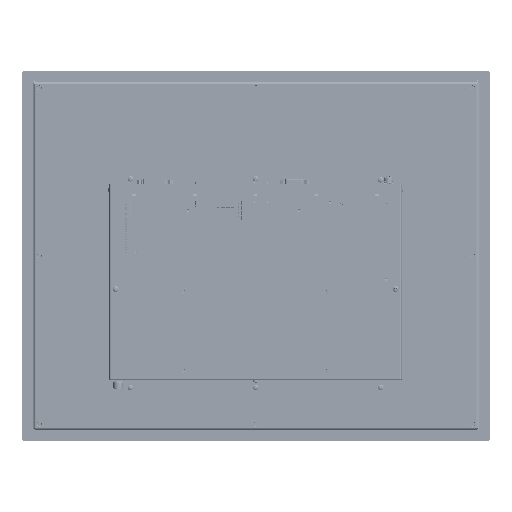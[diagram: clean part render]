
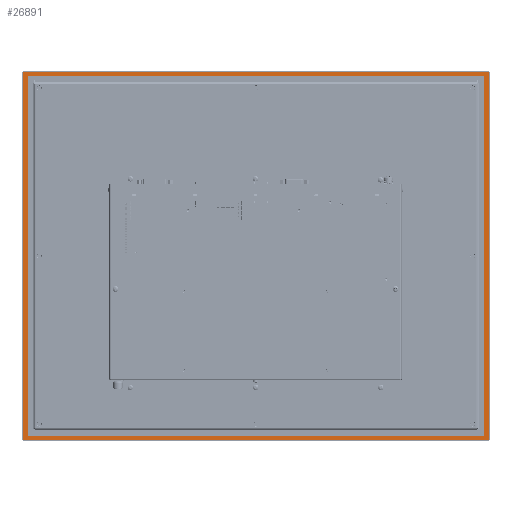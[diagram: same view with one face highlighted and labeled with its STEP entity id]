
A CAD part, front view. The second image highlights one B-rep face of the part: STEP entity #26891.
In plain terms, the highlighted planar face has unit normal (0, -1, 0).
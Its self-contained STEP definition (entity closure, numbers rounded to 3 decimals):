
#607 = DIRECTION ( 'NONE',  ( -1., 0., 0. ) ) ;
#9282 = VERTEX_POINT ( 'NONE', #290086 ) ;
#9455 = ORIENTED_EDGE ( 'NONE', *, *, #10321, .F. ) ;
#10321 = EDGE_CURVE ( 'NONE', #73705, #656509, #248131, .T. ) ;
#14306 = ORIENTED_EDGE ( 'NONE', *, *, #696862, .F. ) ;
#14361 = DIRECTION ( 'NONE',  ( 0., -1., 0. ) ) ;
#26891 = ADVANCED_FACE ( 'NONE', ( #631649, #69956 ), #641865, .T. ) ;
#30557 = EDGE_CURVE ( 'NONE', #314441, #184767, #469634, .T. ) ;
#44774 = CARTESIAN_POINT ( 'NONE',  ( -239., 0.5, 197. ) ) ;
#51977 = EDGE_CURVE ( 'NONE', #689109, #357152, #377651, .T. ) ;
#53025 = VERTEX_POINT ( 'NONE', #238586 ) ;
#56011 = VECTOR ( 'NONE', #214097, 1000. ) ;
#64979 = CARTESIAN_POINT ( 'NONE',  ( 238., 0.5, -177. ) ) ;
#69956 = FACE_OUTER_BOUND ( 'NONE', #708808, .T. ) ;
#73705 = VERTEX_POINT ( 'NONE', #437751 ) ;
#82522 = ORIENTED_EDGE ( 'NONE', *, *, #310980, .F. ) ;
#84240 = DIRECTION ( 'NONE',  ( -1., 0., 0. ) ) ;
#84472 = VECTOR ( 'NONE', #347533, 1000. ) ;
#95922 = CARTESIAN_POINT ( 'NONE',  ( -238., 0.5, -178. ) ) ;
#101438 = DIRECTION ( 'NONE',  ( 0., 0., 1. ) ) ;
#104283 = CARTESIAN_POINT ( 'NONE',  ( 238., 0.5, -178. ) ) ;
#110797 = VERTEX_POINT ( 'NONE', #390532 ) ;
#117277 = CIRCLE ( 'NONE', #532658, 2. ) ;
#119676 = CARTESIAN_POINT ( 'NONE',  ( 244., 0.5, 201. ) ) ;
#126859 = VECTOR ( 'NONE', #224134, 1000. ) ;
#130835 = CARTESIAN_POINT ( 'NONE',  ( -238., 0.5, -178. ) ) ;
#141522 = CARTESIAN_POINT ( 'NONE',  ( 238., 0.5, 198. ) ) ;
#146719 = LINE ( 'NONE', #412157, #84472 ) ;
#154003 = LINE ( 'NONE', #233312, #590534 ) ;
#158919 = VERTEX_POINT ( 'NONE', #583382 ) ;
#171823 = LINE ( 'NONE', #44774, #56011 ) ;
#178895 = CARTESIAN_POINT ( 'NONE',  ( -242., 0.5, 203. ) ) ;
#184767 = VERTEX_POINT ( 'NONE', #178895 ) ;
#194694 = AXIS2_PLACEMENT_3D ( 'NONE', #659636, #666952, #380486 ) ;
#203867 = CARTESIAN_POINT ( 'NONE',  ( -244., 0.5, -181. ) ) ;
#213968 = DIRECTION ( 'NONE',  ( 1., 0., 0. ) ) ;
#214097 = DIRECTION ( 'NONE',  ( 0., 0., -1. ) ) ;
#224134 = DIRECTION ( 'NONE',  ( 0., 0., 1. ) ) ;
#226152 = EDGE_CURVE ( 'NONE', #433694, #110797, #657568, .T. ) ;
#228506 = ORIENTED_EDGE ( 'NONE', *, *, #501400, .F. ) ;
#233312 = CARTESIAN_POINT ( 'NONE',  ( -242., 0.5, 203. ) ) ;
#236942 = LINE ( 'NONE', #674127, #495699 ) ;
#238586 = CARTESIAN_POINT ( 'NONE',  ( 239., 0.5, -177. ) ) ;
#246159 = ORIENTED_EDGE ( 'NONE', *, *, #638118, .F. ) ;
#247978 = CARTESIAN_POINT ( 'NONE',  ( -242., 0.5, -183. ) ) ;
#248131 = CIRCLE ( 'NONE', #584274, 1. ) ;
#262409 = ORIENTED_EDGE ( 'NONE', *, *, #565843, .F. ) ;
#266812 = DIRECTION ( 'NONE',  ( 0., 0., 1. ) ) ;
#275762 = VECTOR ( 'NONE', #607, 1000. ) ;
#290086 = CARTESIAN_POINT ( 'NONE',  ( -239., 0.5, -177. ) ) ;
#295657 = CARTESIAN_POINT ( 'NONE',  ( 242., 0.5, -183. ) ) ;
#310980 = EDGE_CURVE ( 'NONE', #357152, #53025, #342894, .T. ) ;
#313547 = ORIENTED_EDGE ( 'NONE', *, *, #30557, .F. ) ;
#314441 = VERTEX_POINT ( 'NONE', #438863 ) ;
#318086 = CARTESIAN_POINT ( 'NONE',  ( -242., 0.5, 201. ) ) ;
#318751 = DIRECTION ( 'NONE',  ( 0., 0., -1. ) ) ;
#328083 = EDGE_CURVE ( 'NONE', #158919, #9282, #171823, .T. ) ;
#330778 = DIRECTION ( 'NONE',  ( 0., -1., 0. ) ) ;
#336645 = CARTESIAN_POINT ( 'NONE',  ( 242., 0.5, -183. ) ) ;
#339197 = ORIENTED_EDGE ( 'NONE', *, *, #369237, .F. ) ;
#342894 = CIRCLE ( 'NONE', #523335, 1. ) ;
#343492 = CIRCLE ( 'NONE', #194694, 2. ) ;
#345331 = DIRECTION ( 'NONE',  ( 1., 0., 0. ) ) ;
#347533 = DIRECTION ( 'NONE',  ( -1., 0., 0. ) ) ;
#348573 = CARTESIAN_POINT ( 'NONE',  ( 242., 0.5, 201. ) ) ;
#353170 = ORIENTED_EDGE ( 'NONE', *, *, #716508, .F. ) ;
#357152 = VERTEX_POINT ( 'NONE', #104283 ) ;
#362585 = VERTEX_POINT ( 'NONE', #569558 ) ;
#369237 = EDGE_CURVE ( 'NONE', #485973, #397247, #685370, .T. ) ;
#376922 = CARTESIAN_POINT ( 'NONE',  ( 242., 0.5, 203. ) ) ;
#377217 = ORIENTED_EDGE ( 'NONE', *, *, #226152, .F. ) ;
#377651 = LINE ( 'NONE', #130835, #511385 ) ;
#380486 = DIRECTION ( 'NONE',  ( 1., 0., 0. ) ) ;
#390532 = CARTESIAN_POINT ( 'NONE',  ( 244., 0.5, -181. ) ) ;
#391010 = DIRECTION ( 'NONE',  ( 0., 1., 0. ) ) ;
#397247 = VERTEX_POINT ( 'NONE', #247978 ) ;
#398207 = EDGE_LOOP ( 'NONE', ( #470131, #246159, #430995, #262409, #353170, #9455, #710337, #82522 ) ) ;
#407297 = ORIENTED_EDGE ( 'NONE', *, *, #494416, .F. ) ;
#412157 = CARTESIAN_POINT ( 'NONE',  ( 238., 0.5, 198. ) ) ;
#418366 = EDGE_CURVE ( 'NONE', #53025, #73705, #421051, .T. ) ;
#421051 = LINE ( 'NONE', #620133, #126859 ) ;
#430995 = ORIENTED_EDGE ( 'NONE', *, *, #328083, .F. ) ;
#433694 = VERTEX_POINT ( 'NONE', #518851 ) ;
#437751 = CARTESIAN_POINT ( 'NONE',  ( 239., 0.5, 197. ) ) ;
#438863 = CARTESIAN_POINT ( 'NONE',  ( -244., 0.5, 201. ) ) ;
#442858 = VERTEX_POINT ( 'NONE', #203867 ) ;
#442911 = CARTESIAN_POINT ( 'NONE',  ( 238., 0.5, 197. ) ) ;
#445893 = CARTESIAN_POINT ( 'NONE',  ( -242., 0.5, -181. ) ) ;
#457107 = CARTESIAN_POINT ( 'NONE',  ( -238., 0.5, -177. ) ) ;
#460742 = DIRECTION ( 'NONE',  ( 0., 0., 1. ) ) ;
#466155 = ORIENTED_EDGE ( 'NONE', *, *, #648506, .F. ) ;
#469634 = CIRCLE ( 'NONE', #482874, 2. ) ;
#470131 = ORIENTED_EDGE ( 'NONE', *, *, #51977, .F. ) ;
#482874 = AXIS2_PLACEMENT_3D ( 'NONE', #318086, #661869, #84240 ) ;
#485973 = VERTEX_POINT ( 'NONE', #295657 ) ;
#493441 = AXIS2_PLACEMENT_3D ( 'NONE', #655500, #493522, #266812 ) ;
#493522 = DIRECTION ( 'NONE',  ( 0., -1., 0. ) ) ;
#494416 = EDGE_CURVE ( 'NONE', #110797, #485973, #343492, .T. ) ;
#495699 = VECTOR ( 'NONE', #101438, 1000. ) ;
#501400 = EDGE_CURVE ( 'NONE', #397247, #442858, #727168, .T. ) ;
#511385 = VECTOR ( 'NONE', #638811, 1000. ) ;
#518851 = CARTESIAN_POINT ( 'NONE',  ( 244., 0.5, 201. ) ) ;
#523335 = AXIS2_PLACEMENT_3D ( 'NONE', #64979, #545506, #318751 ) ;
#532658 = AXIS2_PLACEMENT_3D ( 'NONE', #348573, #689830, #460742 ) ;
#537115 = DIRECTION ( 'NONE',  ( -1., 0., 0. ) ) ;
#545506 = DIRECTION ( 'NONE',  ( 0., -1., 0. ) ) ;
#565684 = AXIS2_PLACEMENT_3D ( 'NONE', #445893, #391010, #727391 ) ;
#565843 = EDGE_CURVE ( 'NONE', #362585, #158919, #717649, .T. ) ;
#566914 = AXIS2_PLACEMENT_3D ( 'NONE', #696722, #14361, #537115 ) ;
#567906 = EDGE_CURVE ( 'NONE', #657223, #433694, #117277, .T. ) ;
#569558 = CARTESIAN_POINT ( 'NONE',  ( -238., 0.5, 198. ) ) ;
#575261 = DIRECTION ( 'NONE',  ( 0., 0., -1. ) ) ;
#580094 = AXIS2_PLACEMENT_3D ( 'NONE', #457107, #629003, #636279 ) ;
#583382 = CARTESIAN_POINT ( 'NONE',  ( -239., 0.5, 197. ) ) ;
#584274 = AXIS2_PLACEMENT_3D ( 'NONE', #442911, #330778, #213968 ) ;
#590534 = VECTOR ( 'NONE', #345331, 1000. ) ;
#605355 = CIRCLE ( 'NONE', #580094, 1. ) ;
#620133 = CARTESIAN_POINT ( 'NONE',  ( 239., 0.5, -177. ) ) ;
#629003 = DIRECTION ( 'NONE',  ( 0., -1., 0. ) ) ;
#631649 = FACE_BOUND ( 'NONE', #398207, .T. ) ;
#636279 = DIRECTION ( 'NONE',  ( -1., 0., 0. ) ) ;
#638118 = EDGE_CURVE ( 'NONE', #9282, #689109, #605355, .T. ) ;
#638811 = DIRECTION ( 'NONE',  ( 1., 0., 0. ) ) ;
#639662 = VECTOR ( 'NONE', #575261, 1000. ) ;
#641865 = PLANE ( 'NONE',  #566914 ) ;
#648506 = EDGE_CURVE ( 'NONE', #442858, #314441, #236942, .T. ) ;
#655500 = CARTESIAN_POINT ( 'NONE',  ( -238., 0.5, 197. ) ) ;
#656509 = VERTEX_POINT ( 'NONE', #141522 ) ;
#657223 = VERTEX_POINT ( 'NONE', #376922 ) ;
#657568 = LINE ( 'NONE', #119676, #639662 ) ;
#659636 = CARTESIAN_POINT ( 'NONE',  ( 242., 0.5, -181. ) ) ;
#661869 = DIRECTION ( 'NONE',  ( 0., 1., 0. ) ) ;
#666952 = DIRECTION ( 'NONE',  ( 0., 1., 0. ) ) ;
#674127 = CARTESIAN_POINT ( 'NONE',  ( -244., 0.5, -181. ) ) ;
#685370 = LINE ( 'NONE', #336645, #275762 ) ;
#689109 = VERTEX_POINT ( 'NONE', #95922 ) ;
#689830 = DIRECTION ( 'NONE',  ( 0., 1., 0. ) ) ;
#696722 = CARTESIAN_POINT ( 'NONE',  ( 0., 0.5, 0. ) ) ;
#696862 = EDGE_CURVE ( 'NONE', #184767, #657223, #154003, .T. ) ;
#708808 = EDGE_LOOP ( 'NONE', ( #377217, #736955, #14306, #313547, #466155, #228506, #339197, #407297 ) ) ;
#710337 = ORIENTED_EDGE ( 'NONE', *, *, #418366, .F. ) ;
#716508 = EDGE_CURVE ( 'NONE', #656509, #362585, #146719, .T. ) ;
#717649 = CIRCLE ( 'NONE', #493441, 1. ) ;
#727168 = CIRCLE ( 'NONE', #565684, 2. ) ;
#727391 = DIRECTION ( 'NONE',  ( 0., 0., -1. ) ) ;
#736955 = ORIENTED_EDGE ( 'NONE', *, *, #567906, .F. ) ;
